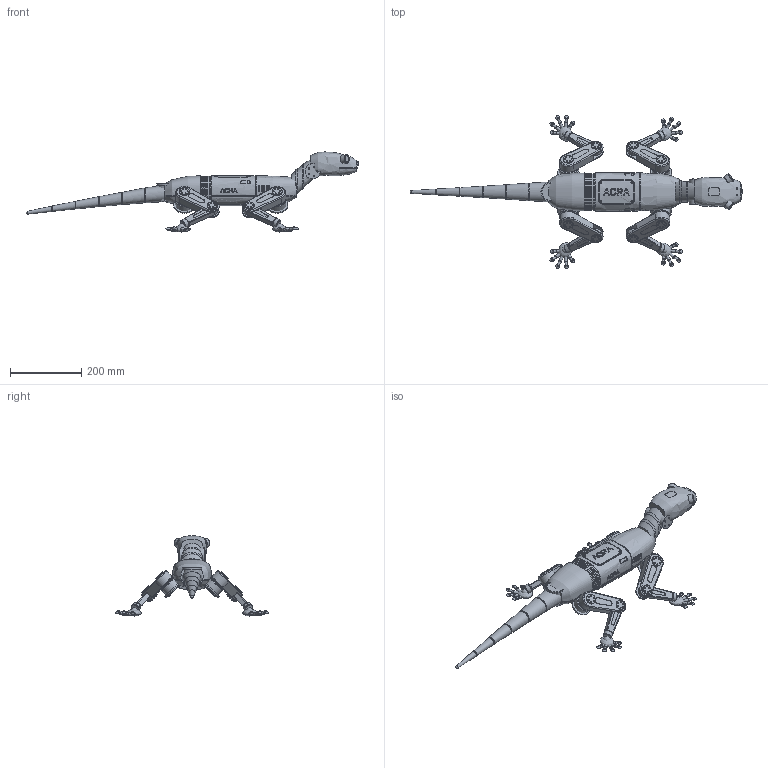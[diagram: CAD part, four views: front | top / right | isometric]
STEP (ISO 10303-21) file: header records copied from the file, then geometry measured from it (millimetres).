
FILE_DESCRIPTION(('FreeCAD Model'),'2;1');
FILE_NAME('Open CASCADE Shape Model','2026-10-24T15:39:03',('Author'),( ''),'Open CASCADE STEP processor 7.8','FreeCAD','Unknown');
FILE_SCHEMA(('AUTOMOTIVE_DESIGN { 1 0 10303 214 1 1 1 1 }'));
Length unit declared in the file: millimetre
Products named in the file (41): ACRA; torso_shell; torso_dark; torso_blue; rear_shell; rear_dark; rear_rubber; head_shell; head_dark; head_black; head_blue; tail_shell; tail_dark; FL_thigh_shell; FL_thigh_dark; FL_shin_shell; FL_shin_dark; FL_foot_shell; FL_foot_dark; FL_foot_rubber; FR_thigh_shell; FR_thigh_dark; FR_shin_shell; FR_shin_dark; FR_foot_shell; FR_foot_dark; FR_foot_rubber; RL_thigh_shell; RL_thigh_dark; RL_shin_shell; RL_shin_dark; RL_foot_shell; RL_foot_dark; RL_foot_rubber; RR_thigh_shell; RR_thigh_dark; RR_shin_shell; RR_shin_dark; RR_foot_shell; RR_foot_dark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
Assembly tree (40 placements, depth 2):
  ACRA
    torso_shell
    torso_dark
    torso_blue
    rear_shell
    rear_dark
    rear_rubber
    head_shell
    head_dark
    head_black
    head_blue
    tail_shell
    tail_dark
    FL_thigh_shell
    FL_thigh_dark
    FL_shin_shell
    FL_shin_dark
    FL_foot_shell
    FL_foot_dark
    FL_foot_rubber
    FR_thigh_shell
    FR_thigh_dark
    FR_shin_shell
    FR_shin_dark
    FR_foot_shell
    FR_foot_dark
    FR_foot_rubber
    RL_thigh_shell
    RL_thigh_dark
    RL_shin_shell
    RL_shin_dark
    RL_foot_shell
    RL_foot_dark
    RL_foot_rubber
    RR_thigh_shell
    RR_thigh_dark
    RR_shin_shell
    RR_shin_dark
    RR_foot_shell
    RR_foot_dark
    RR_foot_rubber
Bounding box: 930.97 x 429.8 x 224.73 mm (x, y, z)
Volume: 5176876.8 mm3; surface area: 687533.4 mm2
Topology: 408 solids, 408 shells, 1986 faces, 4198 edges, 2792 vertices
Faces by surface type: plane 940, cylinder 426, extrusion 240, bspline 188, sphere 126, torus 50, cone 16
Full cylindrical faces by diameter (mm): 2.8 x96, 3.6 x2, 3.8 x10, 4.4 x26, 4.6 x4, 6.4 x20, 8 x20, 11 x1, 14 x4, 18 x2, 24 x4, 25 x2, 26 x8, 28 x8, 42 x1, 48 x1, 50 x4, 54 x1, 60 x4
Entity records: 592020 total; most frequent: CARTESIAN_POINT 554857, ORIENTED_EDGE 7512, DIRECTION 6172, EDGE_CURVE 3756, VERTEX_POINT 2647, AXIS2_PLACEMENT_3D 2339, FACE_BOUND 2073, ADVANCED_FACE 1986
